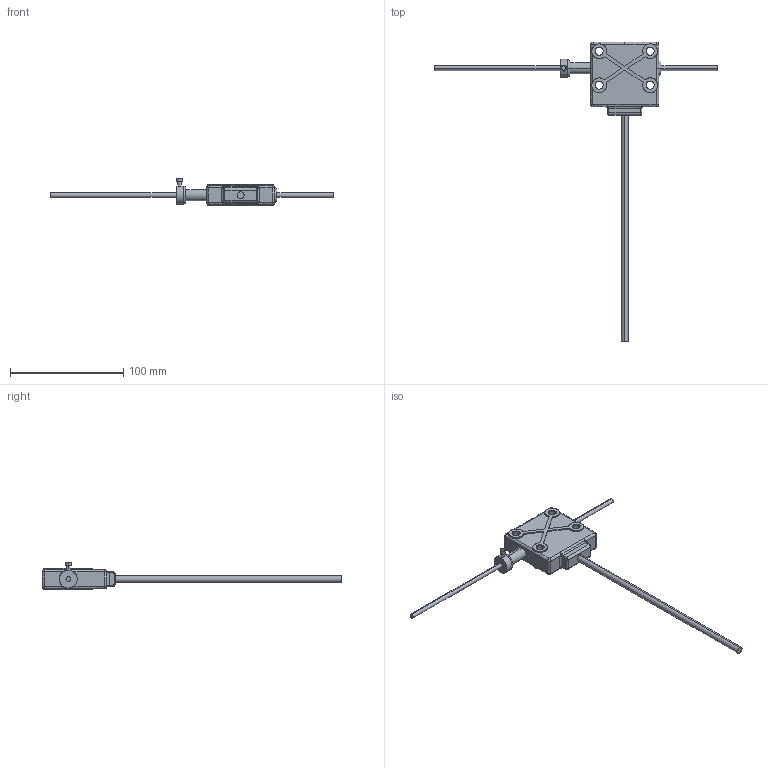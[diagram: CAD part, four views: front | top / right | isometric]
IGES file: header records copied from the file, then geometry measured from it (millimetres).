
Global section: file name: E:\UnigraphicsGraphicData\MISUMI_PRESS-PARTS\IGES\3d_mgugn_04582_r00.igs; native system: NX V5.0; preprocessor: UGS NX IGES V5.0; author: MISUMI; date: 20110105.161444; units: millimetre
Bounding box: 250 x 264.5 x 24.5 mm (x, y, z)
Surface area: 20022.9 mm2 (no closed solid volume)
Topology: 0 solids, 0 shells, 170 faces, 1122 edges, 1122 vertices
Faces by surface type: bspline 170
